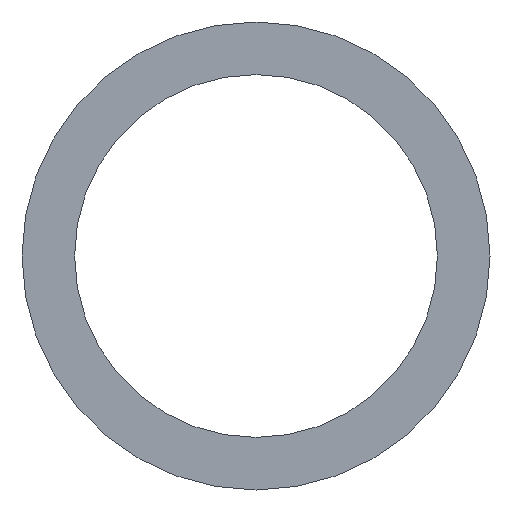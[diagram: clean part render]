
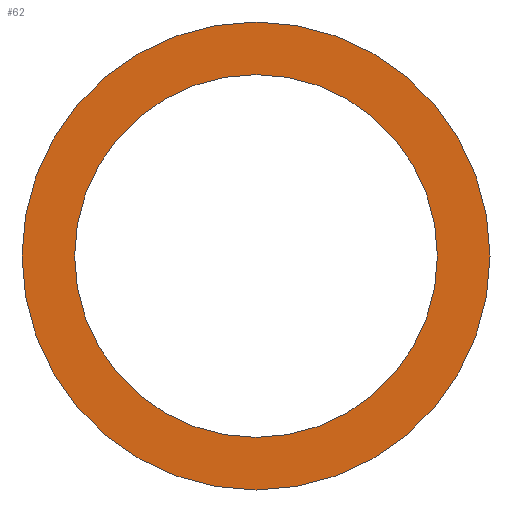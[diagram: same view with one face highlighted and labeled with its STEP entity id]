
A CAD part, front view. The second image highlights one B-rep face of the part: STEP entity #62.
In plain terms, the highlighted planar face has unit normal (0, -1, 0).
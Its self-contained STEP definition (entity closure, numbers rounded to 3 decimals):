
#20=PLANE('',#83);
#26=ORIENTED_EDGE('',*,*,#30,.T.);
#27=ORIENTED_EDGE('',*,*,#32,.F.);
#30=EDGE_CURVE('',#34,#34,#38,.T.);
#32=EDGE_CURVE('',#36,#36,#40,.T.);
#34=VERTEX_POINT('',#106);
#36=VERTEX_POINT('',#111);
#38=CIRCLE('',#78,314.);
#40=CIRCLE('',#81,405.);
#46=EDGE_LOOP('',(#26));
#47=EDGE_LOOP('',(#27));
#54=FACE_BOUND('',#46,.T.);
#55=FACE_BOUND('',#47,.T.);
#62=ADVANCED_FACE('',(#54,#55),#20,.F.);
#78=AXIS2_PLACEMENT_3D('',#105,#89,#90);
#81=AXIS2_PLACEMENT_3D('',#110,#95,#96);
#83=AXIS2_PLACEMENT_3D('',#114,#99,#100);
#89=DIRECTION('',(0.,1.,0.));
#90=DIRECTION('',(1.,0.,0.));
#95=DIRECTION('',(0.,1.,0.));
#96=DIRECTION('',(1.,0.,0.));
#99=DIRECTION('',(0.,1.,0.));
#100=DIRECTION('',(0.,0.,1.));
#105=CARTESIAN_POINT('',(0.,-1.5,0.));
#106=CARTESIAN_POINT('',(314.,-1.5,0.));
#110=CARTESIAN_POINT('',(0.,-1.5,0.));
#111=CARTESIAN_POINT('',(405.,-1.5,0.));
#114=CARTESIAN_POINT('',(0.,-1.5,0.));
